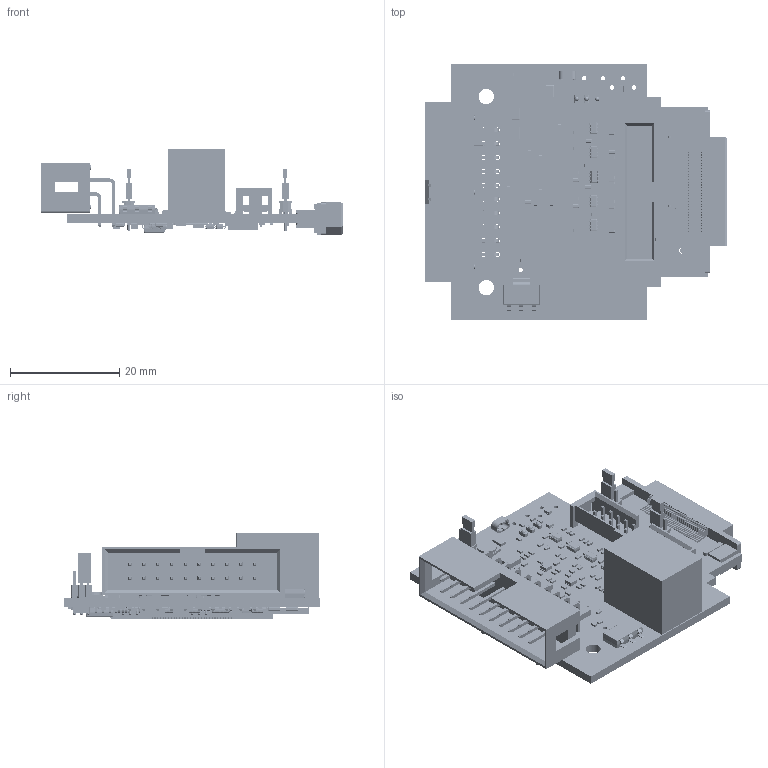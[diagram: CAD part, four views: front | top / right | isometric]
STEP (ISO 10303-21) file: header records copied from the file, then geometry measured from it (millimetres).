
FILE_DESCRIPTION(('Open CASCADE Model'),'2;1');
FILE_NAME('Open CASCADE Shape Model','2021-04-20T14:44:48',('Author'),( 'Open CASCADE'),'Open CASCADE STEP processor 6.8','Open CASCADE 6.8' ,'Unknown');
FILE_SCHEMA(('AUTOMOTIVE_DESIGN { 1 0 10303 214 1 1 1 1 }'));
Length unit declared in the file: millimetre
Products named in the file (445): PCB; Board; Open CASCADE STEP translator 6.8 1.1.1; Open CASCADE STEP translator 6.8 1.1.1.1; R23; 5780845120; Mid_Body; Terminal; Open_CASCADE_STEP_translator_6.8_7.2.1; Mark; LK3; m50-2020005_asm; M50-20X0005_MOULD; M50-CONTACT; TMS-103-02-G-S; _TMS-103-S_header; _T-1M6-03-02-S; P4; STMM-110-01-G-D; _STMM-110-01-D-_header; _STMM-First_Position_Indicator; _T-1S13-10-01-Dstmm; D4; 5780842400; Open_CASCADE_STEP_translator_6.8_1.1.1; Open_CASCADE_STEP_translator_6.8_1.1.2; Open_CASCADE_STEP_translator_6.8_1.2.1; 6482568160; Sphere; R95; 5780839200; R94; 5780841920; R93; R92; R91; R90; R89; R88; R87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
Assembly tree (718 placements, depth 5):
  PCB
    Board
      Open CASCADE STEP translator 6.8 1.1.1
        Open CASCADE STEP translator 6.8 1.1.1.1
    R23
      5780845120
        Mid_Body
        Terminal  x2
          Open_CASCADE_STEP_translator_6.8_7.2.1
        Mark
    LK3
      m50-2020005_asm
        M50-20X0005_MOULD
        M50-CONTACT
      TMS-103-02-G-S
        _TMS-103-S_header
        _T-1M6-03-02-S
    P4
      STMM-110-01-G-D
        _STMM-110-01-D-_header
        _STMM-First_Position_Indicator
        _T-1S13-10-01-Dstmm
    D4
      5780842400
        Terminal
          Open_CASCADE_STEP_translator_6.8_1.1.1
          Open_CASCADE_STEP_translator_6.8_1.1.2
        Mid_Body
          Open_CASCADE_STEP_translator_6.8_1.2.1
      6482568160
        Sphere
    R95
      5780839200
        Mid_Body
        Terminal  x2
          Open_CASCADE_STEP_translator_6.8_7.2.1
        Mark
    R94
      5780841920
        Mid_Body
        Terminal  x2
          Open_CASCADE_STEP_translator_6.8_7.2.1
        Mark
    R93
      5780841920
        Mid_Body
        Terminal  x2
          Open_CASCADE_STEP_translator_6.8_7.2.1
        Mark
    R92
      5780841920
        Mid_Body
        Terminal  x2
          Open_CASCADE_STEP_translator_6.8_7.2.1
        Mark
    R91
      5780841920
        Mid_Body
        Terminal  x2
          Open_CASCADE_STEP_translator_6.8_7.2.1
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Bounding box: 55.28 x 46.9 x 15.78 mm (x, y, z)
Volume: 7548.6 mm3; surface area: 13468.7 mm2
Topology: 904 solids, 923 shells, 15550 faces, 36335 edges, 21623 vertices
Faces by surface type: plane 10313, cylinder 4032, sphere 1055, bspline 150
Full cylindrical faces by diameter (mm): 0.113 x3, 0.194 x2, 0.5 x1, 0.508 x9, 0.66 x9, 0.8 x26, 0.85 x6, 0.9 x20, 2.8 x2, 3.6 x1
Entity records: 154987 total; most frequent: CARTESIAN_POINT 28960, DIRECTION 23919, ORIENTED_EDGE 23214, EDGE_CURVE 11610, LINE 9157, VECTOR 9157, VERTEX_POINT 7416, AXIS2_PLACEMENT_3D 7381
